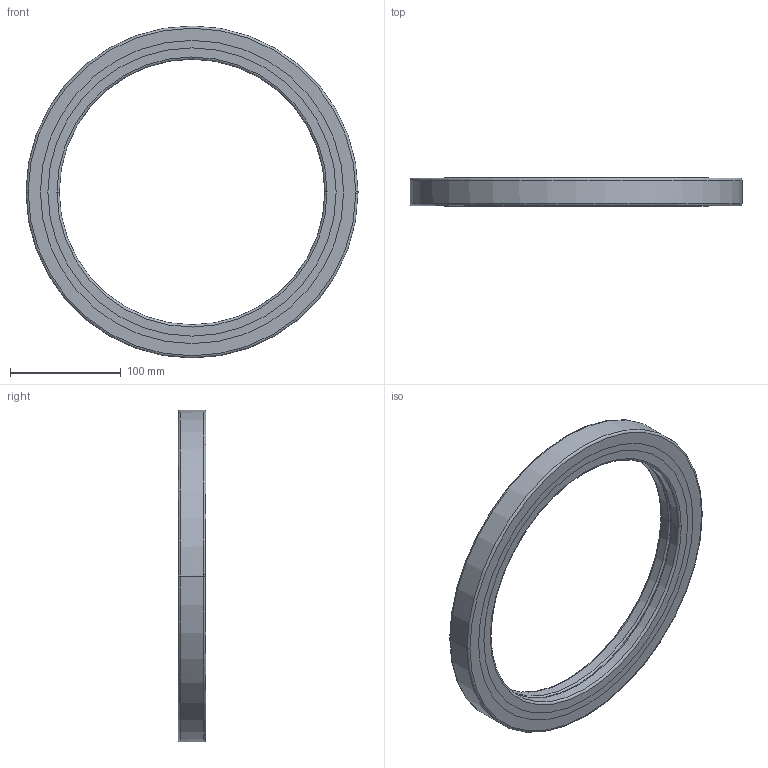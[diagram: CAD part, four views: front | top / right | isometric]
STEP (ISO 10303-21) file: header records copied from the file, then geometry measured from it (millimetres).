
FILE_DESCRIPTION(('no description'),'unknown implementation level');
FILE_NAME('CRBB24025_79.stp',' ',('HIWIN GmbH'),('CADClick - KiM GmbH - www.kimweb.de'),'unknown preprocess','ACIS','unknown authorization');
FILE_SCHEMA(('automotive_design'));
Length unit declared in the file: millimetre
Products named in the file (5): CRBB24025_1; CRBB24025_2; CRBB24025_3; CRBB24025_4; CRBB24025
Bounding box: 300 x 25 x 300 mm (x, y, z)
Volume: 509806.4 mm3; surface area: 164568.7 mm2
Topology: 5 solids, 5 shells, 54 faces, 120 edges, 76 vertices
Faces by surface type: torus 24, cylinder 20, plane 10
Entity records: 3096 total; most frequent: DIRECTION 338, STYLED_ITEM 255, PRESENTATION_STYLE_ASSIGNMENT 255, CARTESIAN_POINT 255, COLOUR_RGB 255, ORIENTED_EDGE 240, AXIS2_PLACEMENT_3D 159, EDGE_CURVE 120
